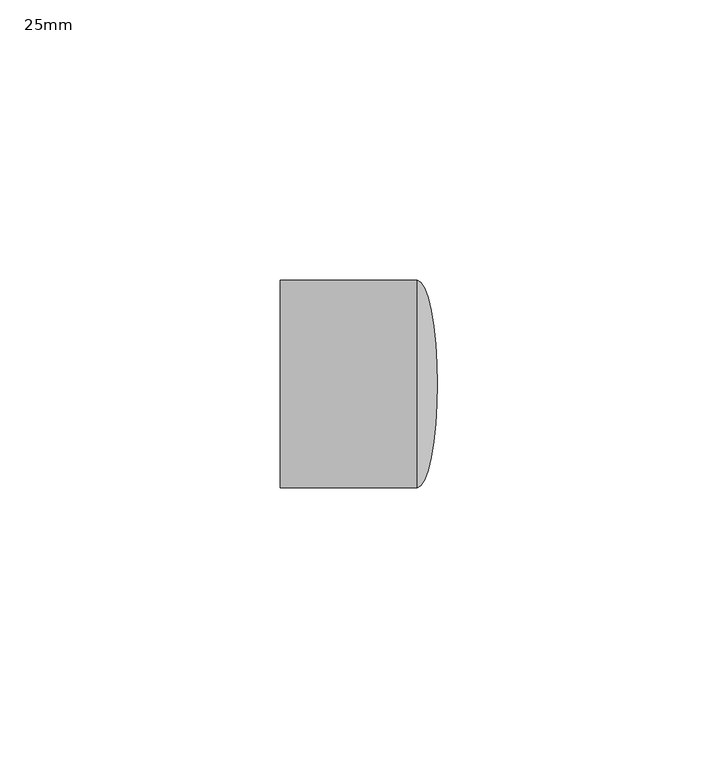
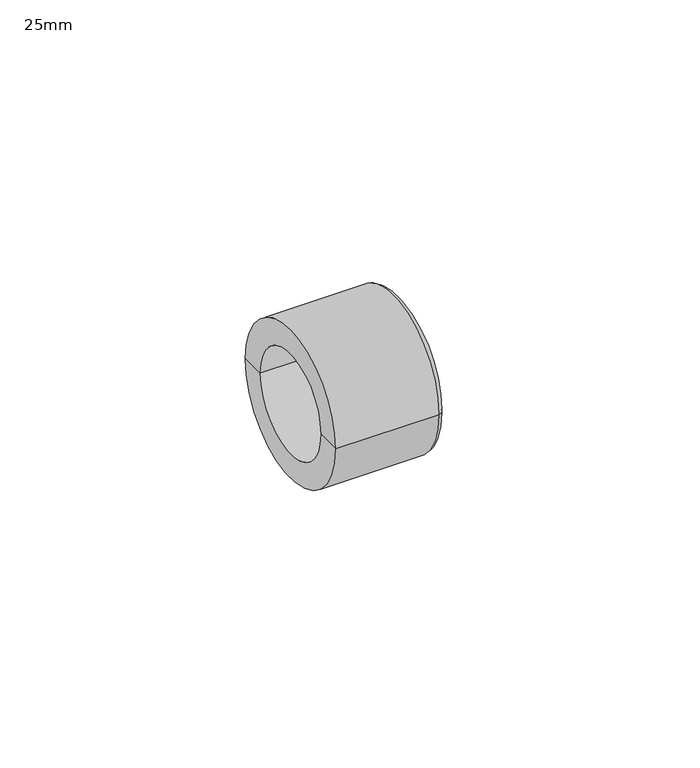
"""IFC4 building model written with IfcOpenShell, lengths in millimetres: pipe fitting geometry, PipeFitting_HTA_CPVC_Caps : 25mm."""

from ifc_helpers import new_model, si_unit, point, frame, origin, place, context, project, spatial, polyline, circle_curve, ellipse_curve, trimmed, source, transform, mapped, element, save
from ifc_brep_helpers import plane_surface, cylinder_surface, revolved_surface, advanced_brep


def pipe_fitting_25mm_c3358f9c(model_context):
    return source(origin(), model_context, "Body", "AdvancedBrep", [
        advanced_brep(
        [(10.4, -18.5, 0.0), (10.4, 18.5, 0.0), (14.0, 0.0, 0.0), (-14.0, -18.5, 0.0), (-14.0, 18.5, 0.0), (-14.0, -12.5, 0.0), (-14.0, 12.5, 0.0), (4.5703125, -12.5, 0.0), (4.5703125, 12.5, 0.0)],
        [
            (0, 1, circle_curve(frame((10.4, 0.0, 0.0), z_axis=(1.0, 0.0, 0.0), x_axis=(0.0, 1.0, 0.0)), 18.5)),
            (1, 2, ellipse_curve(frame((10.4, 0.0, 0.0), z_axis=(0.0, 0.0, -1.0), x_axis=(0.0, 1.0, 0.0)), 18.5, 3.6)),
            (2, 0, ellipse_curve(frame((10.4, 0.0, 0.0), z_axis=(0.0, 0.0, -1.0), x_axis=(0.0, -1.0, 0.0)), 18.5, 3.6)),
            (1, 0, circle_curve(frame((10.4, 0.0, 0.0), z_axis=(1.0, 0.0, 0.0), x_axis=(0.0, 1.0, 0.0)), 18.5)),
            (0, 3),
            (3, 4, circle_curve(frame((-14.0, 0.0, 0.0), z_axis=(1.0, 0.0, 0.0), x_axis=(0.0, 1.0, 0.0)), 18.5)),
            (4, 1),
            (4, 3, circle_curve(frame((-14.0, 0.0, 0.0), z_axis=(1.0, 0.0, 0.0), x_axis=(0.0, 1.0, 0.0)), 18.5)),
            (3, 5),
            (5, 6, circle_curve(frame((-14.0, 0.0, 0.0), z_axis=(1.0, 0.0, 0.0), x_axis=(0.0, 1.0, 0.0)), 12.5)),
            (6, 4),
            (6, 5, circle_curve(frame((-14.0, 0.0, 0.0), z_axis=(1.0, 0.0, 0.0), x_axis=(0.0, 1.0, 0.0)), 12.5)),
            (7, 8, circle_curve(frame((4.5703125, 0.0, 0.0), z_axis=(-1.0, 0.0, 0.0), x_axis=(0.0, 1.0, 0.0)), 12.5)),
            (8, 7, circle_curve(frame((4.5703125, 0.0, 0.0), z_axis=(-1.0, 0.0, 0.0), x_axis=(0.0, 1.0, 0.0)), 12.5)),
            (8, 6),
            (5, 7),
        ],
        [
            revolved_surface(trimmed(ellipse_curve(frame((10.4, 0.0, 0.0), z_axis=(0.0, 0.0, 1.0), x_axis=(0.0, 1.0, 0.0)), 18.5, 3.6), [point((14.0, 0.0, 0.0))], [point((10.4, 18.5, 0.0))], True, "CARTESIAN"), (-380.0, 0.0, 0.0), (-1.0, 0.0, 0.0)),
            cylinder_surface(frame((-380.0, 0.0, 0.0), z_axis=(-1.0, 0.0, 0.0), x_axis=(0.0, 1.0, 0.0)), 18.5),
            plane_surface(frame((-14.0, 0.0, 0.0), z_axis=(-1.0, 0.0, 0.0), x_axis=(0.0, 1.0, 0.0))),
            plane_surface(frame((4.5703125, 12.5, 0.0), z_axis=(-1.0, 0.0, 0.0), x_axis=(0.0, 0.0, 1.0))),
            revolved_surface(polyline([(4.5703125, 12.5, 0.0), (-14.0, 12.5, 0.0)]), (-14.0, 0.0, 0.0), (1.0, 0.0, 0.0)),
        ],
        [
            (0, [[1, 2, 3]]),
            (0, [[-2, 4, -3]]),
            (1, [[-1, 5, 6, 7]]),
            (1, [[-4, -7, 8, -5]]),
            (2, [[-6, 9, 10, 11]]),
            (2, [[-8, -11, 12, -9]]),
            (3, [[13, 14]]),
            (4, [[-14, 15, -10, 16]]),
            (4, [[-13, -16, -12, -15]]),
        ],
    ),
    ])


if __name__ == "__main__":
    model = new_model("IFC4")
    model_context = context("Model", 3, world=origin())
    ifc_project = project(units=[si_unit("LENGTHUNIT", "METRE", prefix="MILLI")], contexts=[model_context])
    site = spatial("IfcSite", under=ifc_project)
    building = spatial("IfcBuilding", under=site)
    placement = place(None, origin())
    pipe_fitting_25mm_shape = pipe_fitting_25mm_c3358f9c(model_context)
    element("IfcPipeFitting", 1, ObjectType="PipeFitting_HTA_CPVC_Caps : 25mm", at=placement, inside=building, context=model_context, shape_type="MappedRepresentation", body=[
        mapped(pipe_fitting_25mm_shape, transform((0.0, 0.0, 0.0), x_axis=(1.0, 0.0, 0.0), y_axis=(0.0, 1.0, 0.0), z_axis=(0.0, 0.0, 1.0))),
    ])
    save(model, "model.ifc")
